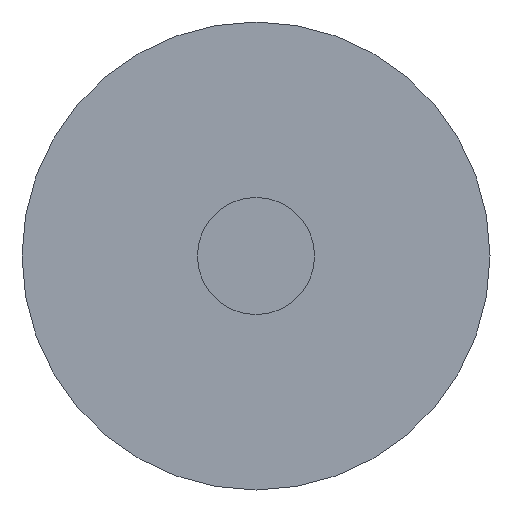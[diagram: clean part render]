
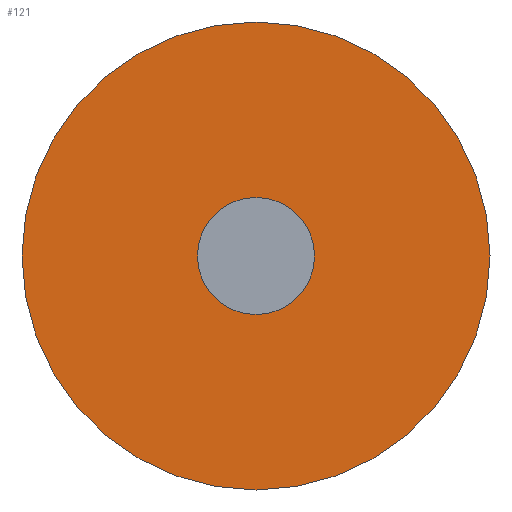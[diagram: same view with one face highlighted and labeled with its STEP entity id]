
A CAD part, left-side view. The second image highlights one B-rep face of the part: STEP entity #121.
In plain terms, the highlighted planar face has unit normal (-1, 0, 0).
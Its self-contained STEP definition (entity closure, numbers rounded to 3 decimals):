
#26=FACE_BOUND('',#52,.T.);
#36=FACE_OUTER_BOUND('',#51,.T.);
#51=EDGE_LOOP('',(#101));
#52=EDGE_LOOP('',(#102));
#67=CIRCLE('',#140,12.);
#68=CIRCLE('',#141,3.);
#77=VERTEX_POINT('',#211);
#78=VERTEX_POINT('',#213);
#87=EDGE_CURVE('',#77,#77,#67,.T.);
#88=EDGE_CURVE('',#78,#78,#68,.T.);
#101=ORIENTED_EDGE('',*,*,#87,.F.);
#102=ORIENTED_EDGE('',*,*,#88,.T.);
#114=PLANE('',#139);
#121=ADVANCED_FACE('',(#36,#26),#114,.T.);
#139=AXIS2_PLACEMENT_3D('',#210,#172,#173);
#140=AXIS2_PLACEMENT_3D('',#212,#174,#175);
#141=AXIS2_PLACEMENT_3D('',#214,#176,#177);
#172=DIRECTION('center_axis',(-1.,0.,0.));
#173=DIRECTION('ref_axis',(0.,0.,1.));
#174=DIRECTION('center_axis',(1.,0.,0.));
#175=DIRECTION('ref_axis',(0.,0.,-1.));
#176=DIRECTION('center_axis',(1.,0.,0.));
#177=DIRECTION('ref_axis',(0.,0.,-1.));
#210=CARTESIAN_POINT('Origin',(-7.5,12.,0.));
#211=CARTESIAN_POINT('',(-7.5,12.,0.));
#212=CARTESIAN_POINT('Origin',(-7.5,0.,0.));
#213=CARTESIAN_POINT('',(-7.5,3.,0.));
#214=CARTESIAN_POINT('Origin',(-7.5,0.,0.));
